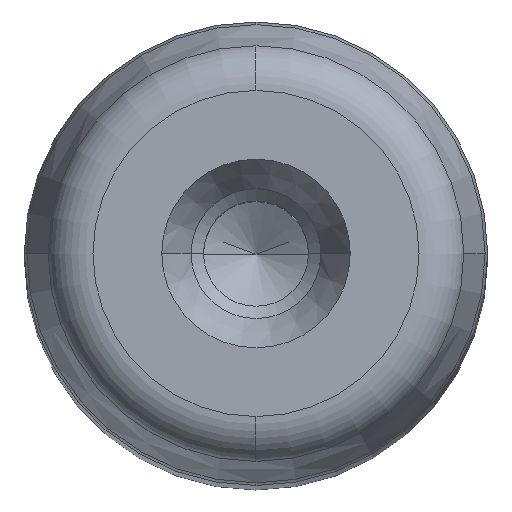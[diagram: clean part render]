
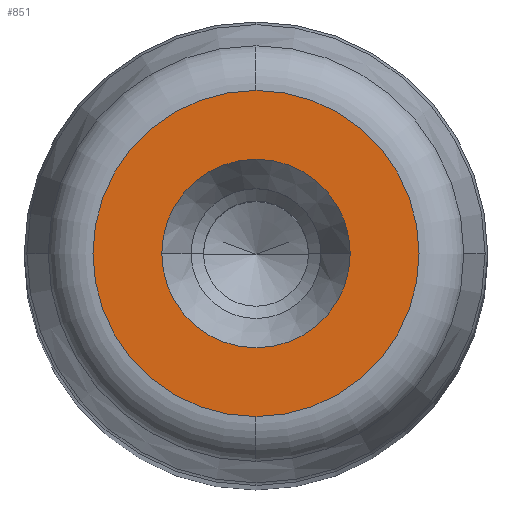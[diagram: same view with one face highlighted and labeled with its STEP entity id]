
A CAD part, top view. The second image highlights one B-rep face of the part: STEP entity #851.
In plain terms, the highlighted planar face has unit normal (0, 0, 1) as drawn and (0, 1, 0) by its records, which use the part's own axes.
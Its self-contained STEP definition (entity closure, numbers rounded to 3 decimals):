
#281=CARTESIAN_POINT('',(6.1,180.0,0.0));
#282=VERTEX_POINT('',#281);
#289=CARTESIAN_POINT('',(-6.1,180.0,0.));
#290=VERTEX_POINT('',#289);
#291=CARTESIAN_POINT('',(0.0,180.0,0.0));
#292=DIRECTION('',(0.0,1.0,0.0));
#293=DIRECTION('',(1.0,0.0,0.0));
#294=AXIS2_PLACEMENT_3D('',#291,#292,#293);
#295=CIRCLE('',#294,6.1);
#296=EDGE_CURVE('',#282,#290,#295,.T.);
#313=CARTESIAN_POINT('',(0.0,180.0,10.554));
#314=VERTEX_POINT('',#313);
#324=CARTESIAN_POINT('',(0.,180.0,-10.554));
#325=VERTEX_POINT('',#324);
#326=CARTESIAN_POINT('',(0.0,180.0,0.0));
#327=DIRECTION('',(0.0,1.0,0.0));
#328=DIRECTION('',(1.0,0.0,0.0));
#329=AXIS2_PLACEMENT_3D('',#326,#327,#328);
#330=CIRCLE('',#329,10.554);
#331=EDGE_CURVE('',#325,#314,#330,.T.);
#812=CARTESIAN_POINT('',(10.554,180.0,0.0));
#813=VERTEX_POINT('',#812);
#814=CARTESIAN_POINT('',(0.0,180.0,0.0));
#815=DIRECTION('',(0.0,1.0,0.0));
#816=DIRECTION('',(1.0,0.0,0.0));
#817=AXIS2_PLACEMENT_3D('',#814,#815,#816);
#818=CIRCLE('',#817,10.554);
#819=EDGE_CURVE('',#813,#325,#818,.T.);
#821=CARTESIAN_POINT('',(0.0,180.0,0.0));
#822=DIRECTION('',(0.0,1.0,0.0));
#823=DIRECTION('',(1.0,0.0,0.0));
#824=AXIS2_PLACEMENT_3D('',#821,#822,#823);
#825=CIRCLE('',#824,10.554);
#826=EDGE_CURVE('',#314,#813,#825,.T.);
#831=CARTESIAN_POINT('',(-11.61,180.0,-11.61));
#832=DIRECTION('',(0.0,1.0,0.0));
#833=DIRECTION('',(0.0,0.0,1.0));
#834=AXIS2_PLACEMENT_3D('',#831,#832,#833);
#835=PLANE('',#834);
#836=ORIENTED_EDGE('',*,*,#819,.T.);
#837=ORIENTED_EDGE('',*,*,#331,.T.);
#838=ORIENTED_EDGE('',*,*,#826,.T.);
#839=EDGE_LOOP('',(#836,#837,#838));
#840=FACE_OUTER_BOUND('',#839,.T.);
#841=ORIENTED_EDGE('',*,*,#296,.F.);
#842=CARTESIAN_POINT('',(0.0,180.0,0.0));
#843=DIRECTION('',(0.0,1.0,0.0));
#844=DIRECTION('',(1.0,0.0,0.0));
#845=AXIS2_PLACEMENT_3D('',#842,#843,#844);
#846=CIRCLE('',#845,6.1);
#847=EDGE_CURVE('',#290,#282,#846,.T.);
#848=ORIENTED_EDGE('',*,*,#847,.F.);
#849=EDGE_LOOP('',(#841,#848));
#850=FACE_BOUND('',#849,.T.);
#851=ADVANCED_FACE('',(#840,#850),#835,.T.);
